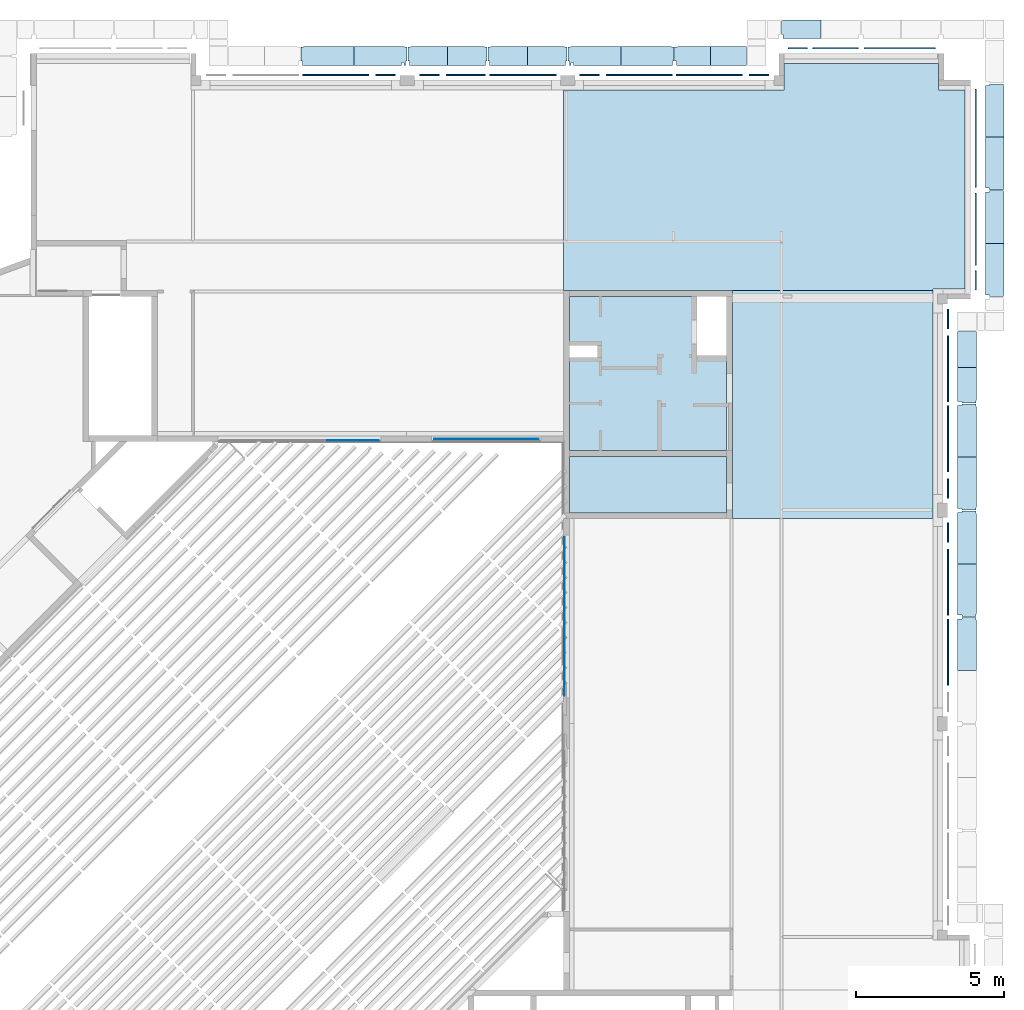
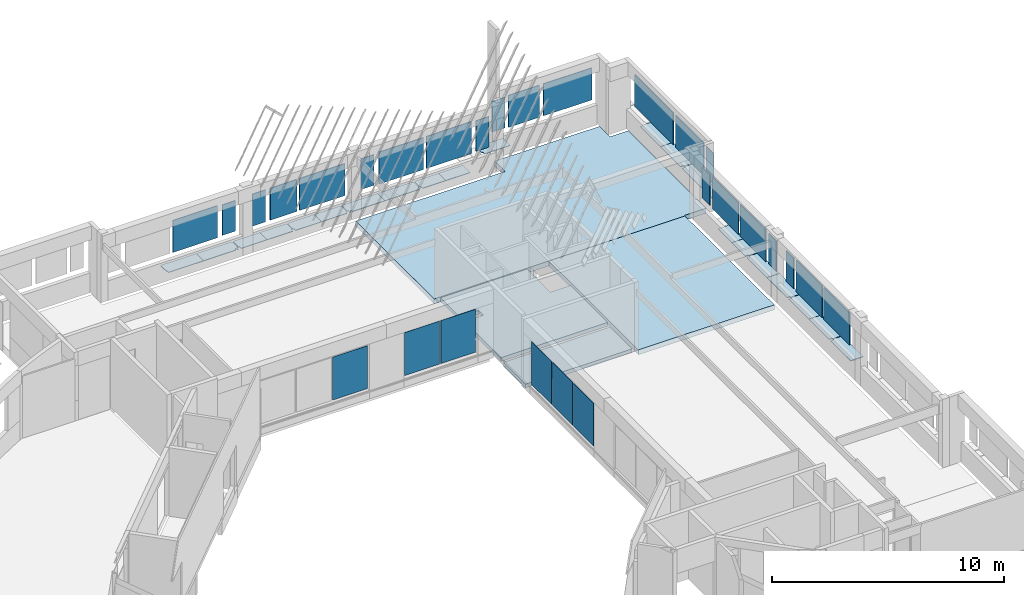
# One storey, part 21 of 37: 28 plates, 26 slabs.
"""IFC4X3_ADD2 building model written with IfcOpenShell, lengths in millimetres."""

from ifc_helpers import new_model, si_unit, direction, frame, frame_2d, origin_with_axes, origin_2d_with_axis, place, context, subcontext, project, spatial, polyline, rectangle, outline, extrude, source, transform, mapped, material, type_object, element, save


model = new_model("IFC4X3_ADD2")

# Units and contexts
model_context = context("Model", 3, precision=1e-05, world=origin_with_axes(), true_north=direction((0.0, 1.0)))
body_context = subcontext(model_context, "Body", "Model", "MODEL_VIEW")
ifc_project = project(units=[si_unit("LENGTHUNIT", "METRE", prefix="MILLI"), si_unit("AREAUNIT", "SQUARE_METRE"), si_unit("VOLUMEUNIT", "CUBIC_METRE"), si_unit("PLANEANGLEUNIT", "RADIAN"), si_unit("TIMEUNIT", "SECOND"), si_unit("MASSUNIT", "GRAM")], contexts=[model_context])

# Site, building, storey
site_placement = place(None, origin_with_axes())
site = spatial("IfcSite", under=ifc_project, at=site_placement, Name="Site", CompositionType="ELEMENT")
building_placement = place(site_placement, origin_with_axes())
building = spatial("IfcBuilding", under=site, at=building_placement, Name="IFC Building Story")
storey_placement = place(building_placement, frame((0.0, 0.0, 3600.0), z_axis=(0.0, 0.0, 1.0), x_axis=(1.0, 0.0, 0.0)))
storey = spatial("IfcBuildingStorey", under=building, at=storey_placement, Name="010", Elevation=3600.0)

# Slabs
ifc_material_1 = material(Name="BB_Beton_Bestaand")
slab_type_1 = type_object("IfcSlabType", Name="BB_Beton_Bestaand 200", PredefinedType="FLOOR", material=ifc_material_1)
slab_1_placement = place(storey_placement, frame((-12500.00406588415, 38300.00000000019, -280.0), z_axis=(0.0, 0.0, 1.0), x_axis=(1.0, 0.0, 0.0)))
element("IfcSlab", 1, at=slab_1_placement, inside=storey, type_object=slab_type_1, Name="Floor:BB_XX_Vloer uit beton, 200 mm", ObjectType="Floor:BB_XX_Vloer uit beton, 200 mm", PredefinedType="FLOOR", context=body_context, shape_type="SweptSolid", body=[
    extrude(outline(polyline([(3190.002439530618, 181.9999999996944), (3190.002439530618, -3017.999999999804), (-2110.001626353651, -3017.999999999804), (-2110.001626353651, 122.0000000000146), (-1160.001626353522, 122.0000000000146), (-1160.001626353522, 532.0000000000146), (-2110.001626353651, 532.0000000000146), (-2110.001626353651, 2182.000000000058), (2190.002439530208, 2182.000000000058), (2190.002439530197, 181.9999999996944), (3190.002439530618, 181.9999999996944)])), frame((2110.001626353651, 3017.999999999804, 0.0), z_axis=(0.0, 0.0, 1.0), x_axis=(1.0, 0.0, 0.0)), (0.0, 0.0, 1.0), 200.0),
])
slab_2_placement = place(storey_placement, frame((-12500.00406588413, 36199.99999999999, -400.0), z_axis=(0.0, 0.0, 1.0), x_axis=(1.0, 0.0, 0.0)))
element("IfcSlab", 2, at=slab_2_placement, inside=storey, type_object=slab_type_1, Name="Floor:BB_XX_Vloer uit beton, 200 mm", ObjectType="Floor:BB_XX_Vloer uit beton, 200 mm", PredefinedType="FLOOR", context=body_context, shape_type="SweptSolid", body=[
    extrude(rectangle(XDim=5300.004065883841, YDim=1900.000000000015, at=origin_2d_with_axis()), frame((2650.00203294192, 950.0000000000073, 0.0), z_axis=(0.0, 0.0, 1.0), x_axis=(1.0, 0.0, 0.0)), (0.0, 0.0, 1.0), 200.0),
])

# Plates
ifc_material_2 = material(Name="BB_Glas")
shared_shape_1 = source(origin_with_axes(), body_context, "Body", "SweptSolid", [
    extrude(rectangle(XDim=1602.000000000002, YDim=652.000000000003, at=frame_2d((0.0, 0.0), x_axis=(0.0, 1.0))), frame((0.0, 0.0, -44.0), z_axis=(0.0, 0.0, 1.0), x_axis=(1.0, 0.0, 0.0)), (0.0, 0.0, 1.0), 44.0),
])
plate_1_placement = place(storey_placement, frame((1222.50000000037, 44044.0, 1765.0), z_axis=(1.0, 0.0, 0.0), x_axis=(0.0, 1.0, 0.0)))
element("IfcPlate", 3, at=plate_1_placement, inside=storey, material=ifc_material_2, Name="BB_07.06_Buitenbeglazing, rechthoekig_GMO:07.06.72#01_Drievoudige beglazing, 44 mm, A/A*/A", ObjectType="BB_07.06_Buitenbeglazing, rechthoekig_GMO:07.06.72#01_Drievoudige beglazing, 44 mm, A/A*/A", PredefinedType="USERDEFINED", context=body_context, shape_type="MappedRepresentation", body=[
    mapped(shared_shape_1, transform((0.0, 0.0, 0.0))),
])
shared_shape_2 = source(origin_with_axes(), body_context, "Body", "SweptSolid", [
    extrude(rectangle(XDim=2432.0, YDim=1680.000000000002, at=origin_2d_with_axis()), frame((0.0, 0.0, -44.0), z_axis=(0.0, 0.0, 1.0), x_axis=(1.0, 0.0, 0.0)), (0.0, 0.0, 1.0), 44.0),
])
plate_2_placement = place(storey_placement, frame((1222.50000000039, 45764.0, 1765.0), z_axis=(1.0, 0.0, 0.0), x_axis=(0.0, 1.0, 0.0)))
element("IfcPlate", 4, at=plate_2_placement, inside=storey, material=ifc_material_2, Name="BB_07.06_Buitenbeglazing, rechthoekig_GMO:07.06.72#01_Drievoudige beglazing, 44 mm, A/A*/A", ObjectType="BB_07.06_Buitenbeglazing, rechthoekig_GMO:07.06.72#01_Drievoudige beglazing, 44 mm, A/A*/A", PredefinedType="USERDEFINED", context=body_context, shape_type="MappedRepresentation", body=[
    mapped(shared_shape_2, transform((0.0, 0.0, 0.0))),
])
shared_shape_3 = source(origin_with_axes(), body_context, "Body", "SweptSolid", [
    extrude(rectangle(XDim=1602.000000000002, YDim=652.0000000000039, at=frame_2d((0.0, 0.0), x_axis=(0.0, 1.0))), frame((0.0, 0.0, -44.0), z_axis=(0.0, 0.0, 1.0), x_axis=(1.0, 0.0, 0.0)), (0.0, 0.0, 1.0), 44.0),
])
for number, where, z_axis, x_axis in (
    (5, (287.500000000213, 35536.0, 1765.0), (1.0, 0.0, 0.0), (0.0, -1.0, 0.0)),
    (6, (287.500000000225, 42736.0, 1765.0), (1.0, 0.0, 0.0), (0.0, -1.0, 0.0)),
    (7, (287.500000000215, 37024.0, 1765.0), (1.0, 0.0, 0.0), (0.0, -1.0, 0.0)),
    (8, (-4801.0, 51887.5000000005, 1765.0), (0.0, 1.0, 0.0), (1.0, 0.0, 0.0)),
    (9, (-11821.0, 50987.5000000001, 1765.0), (0.0, 1.0, 0.0), (1.0, 0.0, 0.0)),
    (10, (-6109.0, 50987.5000000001, 1765.0), (0.0, 1.0, 0.0), (1.0, 0.0, 0.0)),
    (11, (-18709.0, 50987.5000000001, 1765.0), (0.0, 1.0, 0.0), (1.0, 0.0, 0.0)),
):
    element("IfcPlate", number, at=place(storey_placement, frame(where, z_axis=z_axis, x_axis=x_axis)), inside=storey, material=ifc_material_2, Name="BB_07.06_Buitenbeglazing, rechthoekig_GMO:07.06.72#01_Drievoudige beglazing, 44 mm, A/A*/A", ObjectType="BB_07.06_Buitenbeglazing, rechthoekig_GMO:07.06.72#01_Drievoudige beglazing, 44 mm, A/A*/A", PredefinedType="USERDEFINED", context=body_context, shape_type="MappedRepresentation", body=[
        mapped(shared_shape_3, transform((0.0, 0.0, 0.0))),
    ])
shared_shape_4 = source(origin_with_axes(), body_context, "Body", "SweptSolid", [
    extrude(rectangle(XDim=1680.000000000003, YDim=1532.000000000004, at=frame_2d((0.0, 0.0), x_axis=(0.0, 1.0))), frame((0.0, 0.0, -44.0), z_axis=(0.0, 0.0, 1.0), x_axis=(1.0, 0.0, 0.0)), (0.0, 0.0, 1.0), 44.0),
])
plate_3_placement = place(storey_placement, frame((-3531.0, 51887.5000000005, 1765.0), z_axis=(0.0, 1.0, 0.0), x_axis=(1.0, 0.0, 0.0)))
element("IfcPlate", 12, at=plate_3_placement, inside=storey, material=ifc_material_2, Name="BB_07.06_Buitenbeglazing, rechthoekig_GMO:07.06.72#01_Drievoudige beglazing, 44 mm, A/A*/A", ObjectType="BB_07.06_Buitenbeglazing, rechthoekig_GMO:07.06.72#01_Drievoudige beglazing, 44 mm, A/A*/A", PredefinedType="USERDEFINED", context=body_context, shape_type="MappedRepresentation", body=[
    mapped(shared_shape_4, transform((0.0, 0.0, 0.0))),
])
shared_shape_5 = source(origin_with_axes(), body_context, "Body", "SweptSolid", [
    extrude(rectangle(XDim=2400.0, YDim=1680.000000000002, at=origin_2d_with_axis()), frame((0.0, 0.0, -44.0), z_axis=(0.0, 0.0, 1.0), x_axis=(1.0, 0.0, 0.0)), (0.0, 0.0, 1.0), 44.0),
])
plate_4_placement = place(storey_placement, frame((-1365.0, 51887.5000000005, 1765.0), z_axis=(0.0, 1.0, 0.0), x_axis=(1.0, 0.0, 0.0)))
element("IfcPlate", 13, at=plate_4_placement, inside=storey, material=ifc_material_2, Name="BB_07.06_Buitenbeglazing, rechthoekig_GMO:07.06.72#01_Drievoudige beglazing, 44 mm, A/A*/A", ObjectType="BB_07.06_Buitenbeglazing, rechthoekig_GMO:07.06.72#01_Drievoudige beglazing, 44 mm, A/A*/A", PredefinedType="USERDEFINED", context=body_context, shape_type="MappedRepresentation", body=[
    mapped(shared_shape_5, transform((0.0, 0.0, 0.0))),
])
shared_shape_6 = source(origin_with_axes(), body_context, "Body", "SweptSolid", [
    extrude(rectangle(XDim=2222.0, YDim=1680.000000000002, at=origin_2d_with_axis()), frame((0.0, 0.0, -44.0), z_axis=(0.0, 0.0, 1.0), x_axis=(1.0, 0.0, 0.0)), (0.0, 0.0, 1.0), 44.0),
])
for number, where, z_axis, x_axis in (
    (14, (287.500000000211, 33861.0, 1765.0), (1.0, 0.0, 0.0), (0.0, -1.0, 0.0)),
    (15, (287.500000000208, 31499.0, 1765.0), (1.0, 0.0, 0.0), (0.0, -1.0, 0.0)),
    (16, (287.500000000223, 41061.0, 1765.0), (1.0, 0.0, 0.0), (0.0, -1.0, 0.0)),
    (17, (287.50000000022, 38699.0, 1765.0), (1.0, 0.0, 0.0), (0.0, -1.0, 0.0)),
    (18, (-10146.0, 50987.5000000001, 1765.0), (0.0, 1.0, 0.0), (1.0, 0.0, 0.0)),
    (19, (-7784.0, 50987.5000000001, 1765.0), (0.0, 1.0, 0.0), (1.0, 0.0, 0.0)),
    (20, (-20384.0, 50987.5000000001, 1765.0), (0.0, 1.0, 0.0), (1.0, 0.0, 0.0)),
):
    element("IfcPlate", number, at=place(storey_placement, frame(where, z_axis=z_axis, x_axis=x_axis)), inside=storey, material=ifc_material_2, Name="BB_07.06_Buitenbeglazing, rechthoekig_GMO:07.06.72#01_Drievoudige beglazing, 44 mm, A/A*/A", ObjectType="BB_07.06_Buitenbeglazing, rechthoekig_GMO:07.06.72#01_Drievoudige beglazing, 44 mm, A/A*/A", PredefinedType="USERDEFINED", context=body_context, shape_type="MappedRepresentation", body=[
        mapped(shared_shape_6, transform((0.0, 0.0, 0.0))),
    ])
shared_shape_7 = source(origin_with_axes(), body_context, "Body", "SweptSolid", [
    extrude(rectangle(XDim=3300.0, YDim=1680.000000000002, at=origin_2d_with_axis()), frame((0.0, 0.0, -44.0), z_axis=(0.0, 0.0, 1.0), x_axis=(1.0, 0.0, 0.0)), (0.0, 0.0, 1.0), 44.0),
])
plate_5_placement = place(storey_placement, frame((1222.50000000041, 48830.0, 1765.0), z_axis=(1.0, 0.0, 0.0), x_axis=(0.0, 1.0, 0.0)))
element("IfcPlate", 21, at=plate_5_placement, inside=storey, material=ifc_material_2, Name="BB_07.06_Buitenbeglazing, rechthoekig_GMO:07.06.72#01_Drievoudige beglazing, 44 mm, A/A*/A", ObjectType="BB_07.06_Buitenbeglazing, rechthoekig_GMO:07.06.72#01_Drievoudige beglazing, 44 mm, A/A*/A", PredefinedType="USERDEFINED", context=body_context, shape_type="MappedRepresentation", body=[
    mapped(shared_shape_7, transform((0.0, 0.0, 0.0))),
])
shared_shape_8 = source(origin_with_axes(), body_context, "Body", "SweptSolid", [
    extrude(rectangle(XDim=2250.0, YDim=1680.000000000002, at=origin_2d_with_axis()), frame((0.0, 0.0, -44.0), z_axis=(0.0, 0.0, 1.0), x_axis=(1.0, 0.0, 0.0)), (0.0, 0.0, 1.0), 44.0),
])
plate_6_placement = place(storey_placement, frame((-14070.0, 50987.5000000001, 1765.0), z_axis=(0.0, 1.0, 0.0), x_axis=(-1.0, 0.0, 0.0)))
element("IfcPlate", 22, at=plate_6_placement, inside=storey, material=ifc_material_2, Name="BB_07.06_Buitenbeglazing, rechthoekig_GMO:07.06.72#01_Drievoudige beglazing, 44 mm, A/A*/A", ObjectType="BB_07.06_Buitenbeglazing, rechthoekig_GMO:07.06.72#01_Drievoudige beglazing, 44 mm, A/A*/A", PredefinedType="USERDEFINED", context=body_context, shape_type="MappedRepresentation", body=[
    mapped(shared_shape_8, transform((0.0, 0.0, 0.0))),
])
shared_shape_9 = source(origin_with_axes(), body_context, "Body", "SweptSolid", [
    extrude(rectangle(XDim=1680.000000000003, YDim=1322.000000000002, at=frame_2d((0.0, 0.0), x_axis=(0.0, 1.0))), frame((0.0, 0.0, -44.0), z_axis=(0.0, 0.0, 1.0), x_axis=(1.0, 0.0, 0.0)), (0.0, 0.0, 1.0), 44.0),
])
plate_7_placement = place(storey_placement, frame((-15996.0, 50987.5000000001, 1765.0), z_axis=(0.0, 1.0, 0.0), x_axis=(-1.0, 0.0, 0.0)))
element("IfcPlate", 23, at=plate_7_placement, inside=storey, material=ifc_material_2, Name="BB_07.06_Buitenbeglazing, rechthoekig_GMO:07.06.72#01_Drievoudige beglazing, 44 mm, A/A*/A", ObjectType="BB_07.06_Buitenbeglazing, rechthoekig_GMO:07.06.72#01_Drievoudige beglazing, 44 mm, A/A*/A", PredefinedType="USERDEFINED", context=body_context, shape_type="MappedRepresentation", body=[
    mapped(shared_shape_9, transform((0.0, 0.0, 0.0))),
])
shared_shape_10 = source(origin_with_axes(), body_context, "Body", "SweptSolid", [
    extrude(rectangle(XDim=2256.0, YDim=1736.000000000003, at=frame_2d((0.0, 0.0), x_axis=(0.0, 1.0))), frame((0.0, 0.0, -17.0), z_axis=(0.0, 0.0, 1.0), x_axis=(1.0, 0.0, 0.0)), (0.0, 0.0, 1.0), 17.0),
])
for number, where, z_axis, x_axis in (
    (24, (-12671.5040658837, 32700.0, 1475.0), (-1.0, 0.0, 0.0), (0.0, 1.0, 0.0)),
    (25, (-12671.5040658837, 30900.0, 1475.0), (-1.0, 0.0, 0.0), (0.0, 1.0, 0.0)),
    (26, (-19800.0, 38633.5000000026, 1475.0), (0.0, -1.0, 0.0), (-1.0, 0.0, 0.0)),
    (27, (-12671.5040658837, 34500.0, 1475.0), (-1.0, 0.0, 0.0), (0.0, 1.0, 0.0)),
    (28, (-16200.0, 38679.0, 1475.0), (0.0, -1.0, 0.0), (-1.0, 0.0, 0.0)),
    (29, (-14400.0, 38679.0, 1475.0), (0.0, -1.0, 0.0), (-1.0, 0.0, 0.0)),
):
    element("IfcPlate", number, at=place(storey_placement, frame(where, z_axis=z_axis, x_axis=x_axis)), inside=storey, material=ifc_material_2, Name="BB_10.10_Binnenbeglazing, rechthoekig_GMO:10.10.41#02_Enkelvoudige beglazing, 2B2, EI30, 40dB", ObjectType="BB_10.10_Binnenbeglazing, rechthoekig_GMO:10.10.41#02_Enkelvoudige beglazing, 2B2, EI30, 40dB", PredefinedType="USERDEFINED", context=body_context, shape_type="MappedRepresentation", body=[
        mapped(shared_shape_10, transform((0.0, 0.0, 0.0))),
    ])
shared_shape_11 = source(origin_with_axes(), body_context, "Body", "SweptSolid", [
    extrude(rectangle(XDim=1680.000000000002, YDim=652.000000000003, at=frame_2d((0.0, 0.0), x_axis=(0.0, 1.0))), frame((0.0, 0.0, -44.0), z_axis=(0.0, 0.0, 1.0), x_axis=(1.0, 0.0, 0.0)), (0.0, 0.0, 1.0), 44.0),
])
plate_8_placement = place(storey_placement, frame((-17221.0, 50987.5000000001, 1765.0), z_axis=(0.0, 1.0, 0.0), x_axis=(-1.0, 0.0, 0.0)))
element("IfcPlate", 30, at=plate_8_placement, inside=storey, material=ifc_material_2, Name="BB_07.06_Buitenbeglazing, rechthoekig_GMO:07.06.72#01_Drievoudige beglazing, 44 mm, A/A*/A", ObjectType="BB_07.06_Buitenbeglazing, rechthoekig_GMO:07.06.72#01_Drievoudige beglazing, 44 mm, A/A*/A", PredefinedType="USERDEFINED", context=body_context, shape_type="MappedRepresentation", body=[
    mapped(shared_shape_11, transform((0.0, 0.0, 0.0))),
])

# Slabs
slab_type_2 = type_object("IfcSlabType", Name="BB_Beton_Bestaand 260", PredefinedType="FLOOR", material=ifc_material_1)
slab_3_placement = place(storey_placement, frame((-7000.000000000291, 43699.99999999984, -460.0), z_axis=(0.0, 0.0, 1.0), x_axis=(0.0, -1.0, 0.0)))
element("IfcSlab", 31, at=slab_3_placement, inside=storey, type_object=slab_type_2, Name="Floor:BB_XX_Vloer welfsels, 260 mm", ObjectType="Floor:BB_XX_Vloer welfsels, 260 mm", PredefinedType="FLOOR", context=body_context, shape_type="SweptSolid", body=[
    extrude(rectangle(XDim=7699.99999999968, YDim=6755.000000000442, at=frame_2d((0.0, 0.0), x_axis=(-1.0, 0.0))), frame((3849.99999999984, 3377.500000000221, 0.0), z_axis=(0.0, 0.0, 1.0), x_axis=(1.0, 0.0, 0.0)), (0.0, 0.0, 1.0), 260.0),
])
slab_4_placement = place(storey_placement, frame((-12700.00406588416, 43699.99999999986, -460.0), z_axis=(0.0, 0.0, 1.0), x_axis=(1.0, 0.0, 0.0)))
element("IfcSlab", 32, at=slab_4_placement, inside=storey, type_object=slab_type_2, Name="Floor:BB_XX_Vloer welfsels, 260 mm", ObjectType="Floor:BB_XX_Vloer welfsels, 260 mm", PredefinedType="FLOOR", context=body_context, shape_type="SweptSolid", body=[
    extrude(outline(polyline([(3242.000813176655, -4196.99999999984), (3242.000813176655, -4242.00000000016), (-9213.003252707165, -4242.00000000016), (-9213.003252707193, 2512.999999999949), (-1782.999186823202, 2512.999999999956), (-1782.999186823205, 3412.999999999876), (3427.000813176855, 3412.999999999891), (3427.000813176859, 2513.00000000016), (4327.000813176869, 2513.00000000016), (4327.000813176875, -4196.999999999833), (3242.000813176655, -4196.99999999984)])), frame((9213.003252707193, 4242.00000000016, 0.0), z_axis=(0.0, 0.0, 1.0), x_axis=(1.0, 0.0, 0.0)), (0.0, 0.0, 1.0), 260.0),
])
ifc_material_3 = material(Name="Steel, Galvanized - looprooster")
slab_type_3 = type_object("IfcSlabType", Name="Steel, Galvanized - looprooster 30", PredefinedType="FLOOR", material=ifc_material_3)
slab_5_placement = place(storey_placement, frame((-19764.49796376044, 51289.99839785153, -350.0), z_axis=(0.0, 0.0, 1.0), x_axis=(1.0, 0.0, 0.0)))
element("IfcSlab", 33, at=slab_5_placement, inside=storey, type_object=slab_type_3, Name="Floor:GVH - Looprooster 30 mm", ObjectType="Floor:GVH - Looprooster 30 mm", PredefinedType="FLOOR", context=body_context, shape_type="SweptSolid", body=[
    extrude(outline(polyline([(183.9162999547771, -156.6647847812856), (183.9162999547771, -246.6679890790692), (-1415.581700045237, -246.6679890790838), (-1415.581700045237, 383.3320109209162), (281.9165002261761, 383.3320109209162), (281.9165002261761, 368.3342997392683), (368.9162999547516, 368.3342997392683), (368.9162999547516, -101.6655477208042), (316.9162999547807, -101.6655477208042), (316.9162999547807, -246.6679890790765), (263.9162999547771, -246.6679890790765), (263.9162999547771, -156.6647847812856), (183.9162999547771, -156.6647847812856)])), frame((1415.581700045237, 246.6679890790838, 0.0), z_axis=(0.0, 0.0, 1.0), x_axis=(1.0, 0.0, 0.0)), (0.0, 0.0, 1.0), 30.0),
])
slab_6_placement = place(storey_placement, frame((-16614.99796376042, 51289.99839785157, -350.0), z_axis=(0.0, 0.0, 1.0), x_axis=(1.0, 0.0, 0.0)))
element("IfcSlab", 34, at=slab_6_placement, inside=storey, type_object=slab_type_3, Name="Floor:GVH - Looprooster 30 mm", ObjectType="Floor:GVH - Looprooster 30 mm", PredefinedType="FLOOR", context=body_context, shape_type="SweptSolid", body=[
    extrude(outline(polyline([(316.4994999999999, -202.4986040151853), (316.4994999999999, -347.5010453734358), (-966.4985000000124, -347.5010453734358), (-966.4985000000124, 282.4989546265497), (281.499500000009, 282.4989546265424), (281.499500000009, 267.5006947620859), (368.4995000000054, 267.5006947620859), (368.4995000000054, -202.4986040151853), (316.4994999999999, -202.4986040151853)])), frame((966.4985000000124, 347.5010453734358, 0.0), z_axis=(0.0, 0.0, 1.0), x_axis=(1.0, 0.0, 0.0)), (0.0, 0.0, 1.0), 30.0),
])
slab_7_placement = place(storey_placement, frame((589.998741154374, 41102.49796376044, -350.0), z_axis=(0.0, 0.0, 1.0), x_axis=(0.0, -1.0, 0.0)))
element("IfcSlab", 35, at=slab_7_placement, inside=storey, type_object=slab_type_3, Name="Floor:GVH - Looprooster 30 mm", ObjectType="Floor:GVH - Looprooster 30 mm", PredefinedType="FLOOR", context=body_context, shape_type="SweptSolid", body=[
    extrude(outline(polyline([(336.6244999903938, -202.4983463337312), (284.6244999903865, -202.4983463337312), (284.6244999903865, -347.5004367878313), (-870.8735000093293, -347.5004367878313), (-870.8735000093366, 282.4992199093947), (249.624500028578, 282.4992199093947), (249.624500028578, 267.4995632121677), (336.6244999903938, 267.4995632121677), (336.6244999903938, -202.4983463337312)])), frame((870.8735000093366, 347.5004367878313, 0.0), z_axis=(0.0, 0.0, 1.0), x_axis=(1.0, 0.0, 0.0)), (0.0, 0.0, 1.0), 30.0),
])
slab_8_placement = place(storey_placement, frame((589.998741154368, 38079.49796376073, -350.0), z_axis=(0.0, 0.0, 1.0), x_axis=(0.0, -1.0, 0.0)))
element("IfcSlab", 36, at=slab_8_placement, inside=storey, type_object=slab_type_3, Name="Floor:GVH - Looprooster 30 mm", ObjectType="Floor:GVH - Looprooster 30 mm", PredefinedType="FLOOR", context=body_context, shape_type="SweptSolid", body=[
    extrude(outline(polyline([(480.9994999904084, -202.498340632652), (428.9994999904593, -202.498340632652), (428.9994999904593, -347.500438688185), (-1303.998500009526, -347.500438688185), (-1303.998500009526, 282.4992180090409), (393.9995000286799, 282.4992180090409), (393.9995000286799, 267.4995613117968), (480.9994999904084, 267.4995613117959), (480.9994999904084, -202.498340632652)])), frame((1303.998500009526, 347.500438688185, 0.0), z_axis=(0.0, 0.0, 1.0), x_axis=(1.0, 0.0, 0.0)), (0.0, 0.0, 1.0), 30.0),
])
slab_9_placement = place(storey_placement, frame((-21549.29433097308, 51289.99784916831, -350.0), z_axis=(0.0, 0.0, 1.0), x_axis=(1.0, 0.0, 0.0)))
element("IfcSlab", 37, at=slab_9_placement, inside=storey, type_object=slab_type_3, Name="Floor:GVH - Looprooster 30 mm", ObjectType="Floor:GVH - Looprooster 30 mm", PredefinedType="FLOOR", context=body_context, shape_type="SweptSolid", body=[
    extrude(outline(polyline([(-428.8744508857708, -347.5005722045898), (-428.8744508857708, -202.5005722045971), (-480.8744508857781, -202.5005722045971), (-480.8744508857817, 267.5017166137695), (-393.8746473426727, 267.5017166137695), (-393.8746473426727, 282.4994277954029), (1303.623549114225, 282.4994277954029), (1303.623549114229, -347.5005722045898), (-428.8744508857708, -347.5005722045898)])), frame((480.8744508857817, 347.5005722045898, 0.0), z_axis=(0.0, 0.0, 1.0), x_axis=(1.0, 0.0, 0.0)), (0.0, 0.0, 1.0), 30.0),
])
slab_10_placement = place(storey_placement, frame((-17949.99596376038, 51289.99839785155, -350.0), z_axis=(0.0, 0.0, 1.0), x_axis=(1.0, 0.0, 0.0)))
element("IfcSlab", 38, at=slab_10_placement, inside=storey, type_object=slab_type_3, Name="Floor:GVH - Looprooster 30 mm", ObjectType="Floor:GVH - Looprooster 30 mm", PredefinedType="FLOOR", context=body_context, shape_type="SweptSolid", body=[
    extrude(outline(polyline([(-316.4984508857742, -347.501045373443), (-316.4984508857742, -202.498604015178), (-368.4984508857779, -202.498604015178), (-368.4984508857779, 267.5006947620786), (-281.5026473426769, 267.5006947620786), (-281.5026473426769, 282.4989546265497), (966.4995491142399, 282.4989546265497), (966.4995491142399, -347.501045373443), (-316.4984508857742, -347.501045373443)])), frame((368.4984508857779, 347.501045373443, 0.0), z_axis=(0.0, 0.0, 1.0), x_axis=(1.0, 0.0, 0.0)), (0.0, 0.0, 1.0), 30.0),
])
slab_11_placement = place(storey_placement, frame((-13914.49796376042, 51289.99797688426, -350.0), z_axis=(0.0, 0.0, 1.0), x_axis=(1.0, 0.0, 0.0)))
element("IfcSlab", 39, at=slab_11_placement, inside=storey, type_object=slab_type_3, Name="Floor:GVH - Looprooster 30 mm", ObjectType="Floor:GVH - Looprooster 30 mm", PredefinedType="FLOOR", context=body_context, shape_type="SweptSolid", body=[
    extrude(outline(polyline([(316.374449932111, -202.4986040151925), (316.374449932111, -347.501045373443), (-966.1235500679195, -347.501045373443), (-966.1235500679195, 282.4989546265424), (281.3746502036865, 282.4989546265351), (281.3746502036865, 267.5006947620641), (368.3744499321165, 267.5006947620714), (368.3744499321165, -202.4986040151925), (316.374449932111, -202.4986040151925)])), frame((966.1235500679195, 347.501045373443, 0.0), z_axis=(0.0, 0.0, 1.0), x_axis=(1.0, 0.0, 0.0)), (0.0, 0.0, 1.0), 30.0),
])
slab_12_placement = place(storey_placement, frame((-15249.9959637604, 51289.99797688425, -350.0), z_axis=(0.0, 0.0, 1.0), x_axis=(1.0, 0.0, 0.0)))
element("IfcSlab", 40, at=slab_12_placement, inside=storey, type_object=slab_type_3, Name="Floor:GVH - Looprooster 30 mm", ObjectType="Floor:GVH - Looprooster 30 mm", PredefinedType="FLOOR", context=body_context, shape_type="SweptSolid", body=[
    extrude(outline(polyline([(-316.4974999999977, -347.5010453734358), (-316.4974999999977, -202.498604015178), (-368.4975000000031, -202.498604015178), (-368.4975000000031, 267.5006947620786), (-281.5014999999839, 267.5006947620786), (-281.5014999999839, 282.498954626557), (966.4964999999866, 282.498954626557), (966.4964999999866, -347.5010453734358), (-316.4974999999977, -347.5010453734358)])), frame((368.4975000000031, 347.5010453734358, 0.0), z_axis=(0.0, 0.0, 1.0), x_axis=(1.0, 0.0, 0.0)), (0.0, 0.0, 1.0), 30.0),
])
slab_13_placement = place(storey_placement, frame((-12549.99596376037, 51289.99839785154, -350.0), z_axis=(0.0, 0.0, 1.0), x_axis=(1.0, 0.0, 0.0)))
element("IfcSlab", 41, at=slab_13_placement, inside=storey, type_object=slab_type_3, Name="Floor:GVH - Looprooster 30 mm", ObjectType="Floor:GVH - Looprooster 30 mm", PredefinedType="FLOOR", context=body_context, shape_type="SweptSolid", body=[
    extrude(outline(polyline([(-316.9149672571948, -246.667989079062), (-316.9149672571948, -101.6655477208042), (-368.9149672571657, -101.6655477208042), (-368.9149672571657, 368.3342997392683), (-281.9191637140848, 368.3342997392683), (-281.9191637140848, 383.3320109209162), (1415.579032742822, 383.3320109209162), (1415.579032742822, -246.667989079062), (-183.9149672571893, -246.6679890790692), (-183.9149672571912, -156.6647847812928), (-263.9149672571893, -156.6647847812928), (-263.9149672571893, -246.667989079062), (-316.9149672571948, -246.667989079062)])), frame((368.9149672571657, 246.6679890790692, 0.0), z_axis=(0.0, 0.0, 1.0), x_axis=(1.0, 0.0, 0.0)), (0.0, 0.0, 1.0), 30.0),
])
slab_14_placement = place(storey_placement, frame((-10764.49796185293, 51289.99839785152, -350.0), z_axis=(0.0, 0.0, 1.0), x_axis=(1.0, 0.0, 0.0)))
element("IfcSlab", 42, at=slab_14_placement, inside=storey, type_object=slab_type_3, Name="Floor:GVH - Looprooster 30 mm", ObjectType="Floor:GVH - Looprooster 30 mm", PredefinedType="FLOOR", context=body_context, shape_type="SweptSolid", body=[
    extrude(outline(polyline([(428.8764494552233, -202.5005722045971), (428.8764494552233, -347.5005722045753), (-1303.625548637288, -347.5005722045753), (-1303.625548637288, 282.4994277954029), (393.8726497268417, 282.4994277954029), (393.8726497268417, 267.5017166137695), (480.8764494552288, 267.5017166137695), (480.8764494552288, -202.5005722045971), (428.8764494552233, -202.5005722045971)])), frame((1303.625548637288, 347.5005722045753, 0.0), z_axis=(0.0, 0.0, 1.0), x_axis=(1.0, 0.0, 0.0)), (0.0, 0.0, 1.0), 30.0),
])
slab_15_placement = place(storey_placement, frame((-8949.999963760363, 51289.99595649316, -350.0), z_axis=(0.0, 0.0, 1.0), x_axis=(1.0, 0.0, 0.0)))
element("IfcSlab", 43, at=slab_15_placement, inside=storey, type_object=slab_type_3, Name="Floor:GVH - Looprooster 30 mm", ObjectType="Floor:GVH - Looprooster 30 mm", PredefinedType="FLOOR", context=body_context, shape_type="SweptSolid", body=[
    extrude(outline(polyline([(-284.6244513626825, -347.5010453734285), (-284.6244513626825, -202.4986040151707), (-336.624451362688, -202.4986040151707), (-336.6244513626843, 267.5006947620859), (-249.6246478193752, 267.5006947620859), (-249.6246478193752, 282.4989546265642), (870.8735505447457, 282.498954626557), (870.873550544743, -347.5010453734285), (-284.6244513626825, -347.5010453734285)])), frame((336.6244513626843, 347.5010453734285, 0.0), z_axis=(0.0, 0.0, 1.0), x_axis=(1.0, 0.0, 0.0)), (0.0, 0.0, 1.0), 30.0),
])
slab_16_placement = place(storey_placement, frame((-7741.499258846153, 51289.9959564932, -350.0), z_axis=(0.0, 0.0, 1.0), x_axis=(1.0, 0.0, 0.0)))
element("IfcSlab", 44, at=slab_16_placement, inside=storey, type_object=slab_type_3, Name="Floor:GVH - Looprooster 30 mm", ObjectType="Floor:GVH - Looprooster 30 mm", PredefinedType="FLOOR", context=body_context, shape_type="SweptSolid", body=[
    extrude(rectangle(XDim=1207.998000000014, YDim=629.9999999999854, at=origin_2d_with_axis()), frame((603.9990000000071, 314.9999999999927, 0.0), z_axis=(0.0, 0.0, 1.0), x_axis=(1.0, 0.0, 0.0)), (0.0, 0.0, 1.0), 30.0),
])
slab_17_placement = place(storey_placement, frame((589.998741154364, 36265.00000000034, -350.0), z_axis=(0.0, 0.0, 1.0), x_axis=(0.0, -1.0, 0.0)))
element("IfcSlab", 45, at=slab_17_placement, inside=storey, type_object=slab_type_3, Name="Floor:GVH - Looprooster 30 mm", ObjectType="Floor:GVH - Looprooster 30 mm", PredefinedType="FLOOR", context=body_context, shape_type="SweptSolid", body=[
    extrude(outline(polyline([(-393.9994637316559, 282.4992180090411), (1303.99849999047, 282.4992180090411), (1303.99849999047, -347.5004386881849), (-428.9995362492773, -347.5004386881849), (-428.9995362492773, -202.4983406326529), (-480.9995000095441, -202.4983406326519), (-480.9995000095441, 267.4995613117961), (-393.9994637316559, 267.4995613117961), (-393.9994637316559, 282.4992180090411)])), frame((480.9995000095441, 347.5004386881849, 0.0), z_axis=(0.0, 0.0, 1.0), x_axis=(1.0, 0.0, 0.0)), (0.0, 0.0, 1.0), 30.0),
])
slab_18_placement = place(storey_placement, frame((589.998733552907, 32665.49996376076, -350.0), z_axis=(0.0, 0.0, 1.0), x_axis=(0.0, -1.0, 0.0)))
element("IfcSlab", 46, at=slab_18_placement, inside=storey, type_object=slab_type_3, Name="Floor:GVH - Looprooster 30 mm", ObjectType="Floor:GVH - Looprooster 30 mm", PredefinedType="FLOOR", context=body_context, shape_type="SweptSolid", body=[
    extrude(outline(polyline([(-394.1245000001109, 282.499218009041), (1304.373500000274, 282.499218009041), (1304.373500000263, -347.5004386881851), (-429.1245000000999, -347.5004386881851), (-429.1245000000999, -202.4983406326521), (-481.1245000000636, -202.4983406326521), (-481.1245000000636, 267.4995613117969), (-394.1245000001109, 267.499561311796), (-394.1245000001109, 282.499218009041)])), frame((481.1245000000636, 347.5004386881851, 0.0), z_axis=(0.0, 0.0, 1.0), x_axis=(1.0, 0.0, 0.0)), (0.0, 0.0, 1.0), 30.0),
])
slab_19_placement = place(storey_placement, frame((589.998741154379, 39865.49996376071, -350.0), z_axis=(0.0, 0.0, 1.0), x_axis=(0.0, -1.0, 0.0)))
element("IfcSlab", 47, at=slab_19_placement, inside=storey, type_object=slab_type_3, Name="Floor:GVH - Looprooster 30 mm", ObjectType="Floor:GVH - Looprooster 30 mm", PredefinedType="FLOOR", context=body_context, shape_type="SweptSolid", body=[
    extrude(outline(polyline([(-394.1254818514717, 282.4992180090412), (1303.872518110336, 282.4992180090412), (1303.872518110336, -347.5004386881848), (-428.6215543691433, -347.5004386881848), (-428.6215543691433, -202.4983406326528), (-481.1254818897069, -202.4983406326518), (-481.1254818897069, 267.4995613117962), (-394.1254818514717, 267.4995613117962), (-394.1254818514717, 282.4992180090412)])), frame((481.1254818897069, 347.5004386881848, 0.0), z_axis=(0.0, 0.0, 1.0), x_axis=(1.0, 0.0, 0.0)), (0.0, 0.0, 1.0), 30.0),
])
slab_20_placement = place(storey_placement, frame((589.998741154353, 34479.49796376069, -350.0), z_axis=(0.0, 0.0, 1.0), x_axis=(0.0, -1.0, 0.0)))
element("IfcSlab", 48, at=slab_20_placement, inside=storey, type_object=slab_type_3, Name="Floor:GVH - Looprooster 30 mm", ObjectType="Floor:GVH - Looprooster 30 mm", PredefinedType="FLOOR", context=body_context, shape_type="SweptSolid", body=[
    extrude(outline(polyline([(480.999500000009, -202.4983406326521), (428.999499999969, -202.4983406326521), (428.999499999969, -347.5004386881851), (-1303.998499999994, -347.5004386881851), (-1303.998499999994, 282.4992180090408), (393.9994999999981, 282.4992180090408), (393.9994999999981, 267.4995613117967), (480.9995000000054, 267.4995613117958), (480.999500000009, -202.4983406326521)])), frame((1303.998499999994, 347.5004386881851, 0.0), z_axis=(0.0, 0.0, 1.0), x_axis=(1.0, 0.0, 0.0)), (0.0, 0.0, 1.0), 30.0),
])
slab_21_placement = place(storey_placement, frame((589.998741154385, 42311.50010681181, -350.0), z_axis=(0.0, 0.0, 1.0), x_axis=(0.0, -1.0, 0.0)))
element("IfcSlab", 49, at=slab_21_placement, inside=storey, type_object=slab_type_3, Name="Floor:GVH - Looprooster 30 mm", ObjectType="Floor:GVH - Looprooster 30 mm", PredefinedType="FLOOR", context=body_context, shape_type="SweptSolid", body=[
    extrude(rectangle(XDim=1207.998000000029, YDim=629.9996566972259, at=frame_2d((0.0, 0.0), x_axis=(-1.0, 0.0))), frame((603.9990000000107, 314.9998283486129, 0.0), z_axis=(0.0, 0.0, 1.0), x_axis=(1.0, 0.0, 0.0)), (0.0, 0.0, 1.0), 30.0),
])
slab_22_placement = place(storey_placement, frame((-5350.00396376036, 52189.99783771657, -350.0), z_axis=(0.0, 0.0, 1.0), x_axis=(1.0, 0.0, 0.0)))
element("IfcSlab", 50, at=slab_22_placement, inside=storey, type_object=slab_type_3, Name="Floor:GVH - Looprooster 30 mm", ObjectType="Floor:GVH - Looprooster 30 mm", PredefinedType="FLOOR", context=body_context, shape_type="SweptSolid", body=[
    extrude(outline(polyline([(-316.3764513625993, -347.5013254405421), (-316.3764513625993, -202.4983239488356), (-368.3764513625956, -202.4983239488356), (-368.3764513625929, 267.5009748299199), (-281.3726478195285, 267.5009748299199), (-281.3726478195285, 282.4986745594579), (966.1255505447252, 282.4986745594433), (966.125550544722, -347.5013254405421), (-316.3764513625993, -347.5013254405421)])), frame((368.376451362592, 347.5013254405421, 0.0), z_axis=(0.0, 0.0, 1.0), x_axis=(1.0, 0.0, 0.0)), (0.0, 0.0, 1.0), 30.0),
])
slab_23_placement = place(storey_placement, frame((1524.998741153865, 50664.99600000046, -350.0), z_axis=(0.0, 0.0, 1.0), x_axis=(0.0, -1.0, 0.0)))
element("IfcSlab", 51, at=slab_23_placement, inside=storey, type_object=slab_type_3, Name="Floor:GVH - Looprooster 30 mm", ObjectType="Floor:GVH - Looprooster 30 mm", PredefinedType="FLOOR", context=body_context, shape_type="SweptSolid", body=[
    extrude(outline(polyline([(-394.0024637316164, 282.4992180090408), (1303.999499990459, 282.4992180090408), (1303.999499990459, -347.5004386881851), (-428.998536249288, -347.5004386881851), (-428.998536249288, -202.4983406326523), (-480.9985000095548, -202.4983406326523), (-480.9985000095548, 267.4995613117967), (-394.0024637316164, 267.4995613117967), (-394.0024637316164, 282.4992180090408)])), frame((480.9985000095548, 347.5004386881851, 0.0), z_axis=(0.0, 0.0, 1.0), x_axis=(1.0, 0.0, 0.0)), (0.0, 0.0, 1.0), 30.0),
])
slab_24_placement = place(storey_placement, frame((1524.998741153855, 48879.49639785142, -350.0), z_axis=(0.0, 0.0, 1.0), x_axis=(0.0, -1.0, 0.0)))
element("IfcSlab", 52, at=slab_24_placement, inside=storey, type_object=slab_type_3, Name="Floor:GVH - Looprooster 30 mm", ObjectType="Floor:GVH - Looprooster 30 mm", PredefinedType="FLOOR", context=body_context, shape_type="SweptSolid", body=[
    extrude(outline(polyline([(480.8740813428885, -202.4983406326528), (428.8741175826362, -202.4983406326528), (428.8741175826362, -347.5004386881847), (-1303.62231650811, -347.5004386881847), (-1303.622316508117, 282.4992180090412), (393.8741175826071, 282.4992180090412), (393.8741175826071, 267.4995613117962), (480.8740813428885, 267.4995613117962), (480.8740813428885, -202.4983406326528)])), frame((1303.622316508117, 347.5004386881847, 0.0), z_axis=(0.0, 0.0, 1.0), x_axis=(1.0, 0.0, 0.0)), (0.0, 0.0, 1.0), 30.0),
])
slab_25_placement = place(storey_placement, frame((1524.998741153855, 47064.99839785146, -350.0), z_axis=(0.0, 0.0, 1.0), x_axis=(0.0, -1.0, 0.0)))
element("IfcSlab", 53, at=slab_25_placement, inside=storey, type_object=slab_type_3, Name="Floor:GVH - Looprooster 30 mm", ObjectType="Floor:GVH - Looprooster 30 mm", PredefinedType="FLOOR", context=body_context, shape_type="SweptSolid", body=[
    extrude(outline(polyline([(-393.9993836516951, 282.4992180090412), (1303.998473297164, 282.4992180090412), (1303.998473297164, -347.5004386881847), (-428.999562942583, -347.5004386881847), (-428.999562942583, -202.4983406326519), (-480.9995267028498, -202.4983406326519), (-480.9995267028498, 267.4995613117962), (-393.9993836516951, 267.4995613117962), (-393.9993836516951, 282.4992180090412)])), frame((480.9995267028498, 347.5004386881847, 0.0), z_axis=(0.0, 0.0, 1.0), x_axis=(1.0, 0.0, 0.0)), (0.0, 0.0, 1.0), 30.0),
])
slab_26_placement = place(storey_placement, frame((1524.998741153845, 45279.49803623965, -350.0), z_axis=(0.0, 0.0, 1.0), x_axis=(0.0, -1.0, 0.0)))
element("IfcSlab", 54, at=slab_26_placement, inside=storey, type_object=slab_type_3, Name="Floor:GVH - Looprooster 30 mm", ObjectType="Floor:GVH - Looprooster 30 mm", PredefinedType="FLOOR", context=body_context, shape_type="SweptSolid", body=[
    extrude(outline(polyline([(480.8728647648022, -202.4983406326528), (428.8729010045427, -202.4983406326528), (428.8729010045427, -347.5004386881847), (-1303.622773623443, -347.5004386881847), (-1303.622773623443, 282.4992180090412), (393.8770078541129, 282.4992180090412), (393.8770078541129, 267.4995613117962), (480.8728647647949, 267.4995613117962), (480.8728647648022, -202.4983406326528)])), frame((1303.622773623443, 347.5004386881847, 0.0), z_axis=(0.0, 0.0, 1.0), x_axis=(1.0, 0.0, 0.0)), (0.0, 0.0, 1.0), 30.0),
])

save(model, "model.ifc")
